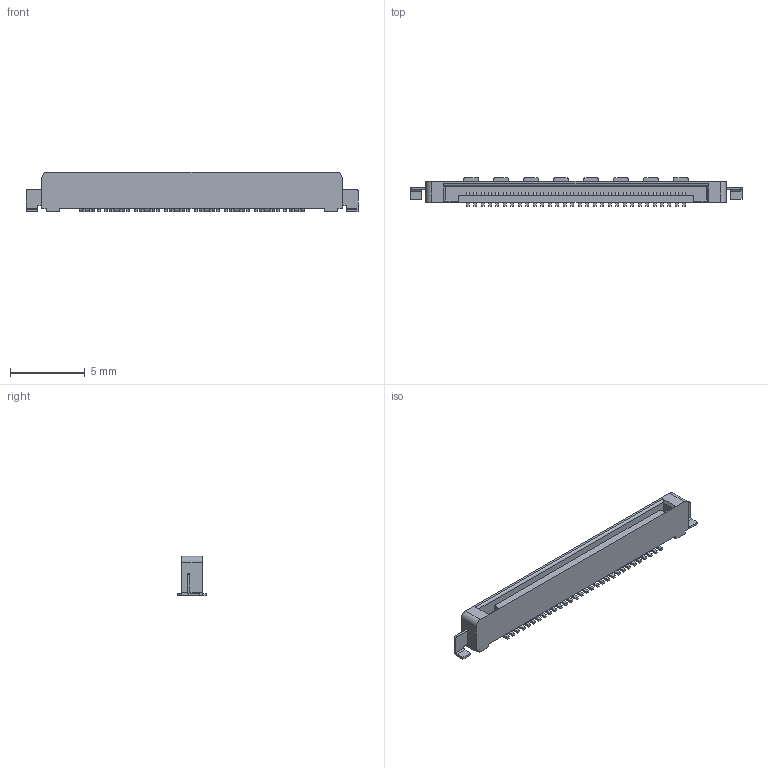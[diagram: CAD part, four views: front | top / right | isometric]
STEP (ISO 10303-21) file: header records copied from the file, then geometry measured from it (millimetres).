
FILE_DESCRIPTION(('Creo Elements/Direct Modeling STEP Export'),'2;1');
FILE_NAME('P39289_SSL00-30S.stp','2017-10-11T13:48:43',(''),(''),'Creo Elements/Direct Modeling STEP processor for AP214 (Solid Model)','Creo Elements/Direct Modeling 19.0F 14-Feb-2017 (C) Parametric Technology GmbH','');
FILE_SCHEMA(('AUTOMOTIVE_DESIGN { 1 0 10303 214 1 1 1 1 }'));
Length unit declared in the file: millimetre
Products named in the file (2): SSL00-30S
Assembly tree (1 placements, depth 2):
  SSL00-30S
    SSL00-30S
Bounding box: 22.2 x 1.9 x 2.65 mm (x, y, z)
Volume: 51.1 mm3; surface area: 276 mm2
Topology: 1 solids, 1 shells, 598 faces, 1753 edges, 1168 vertices
Faces by surface type: plane 373, cylinder 225
Entity records: 20032 total; most frequent: CARTESIAN_POINT 3525, ORIENTED_EDGE 3506, DIRECTION 3399, EDGE_CURVE 1753, VECTOR 1303, LINE 1303, VERTEX_POINT 1168, AXIS2_PLACEMENT_3D 1048
